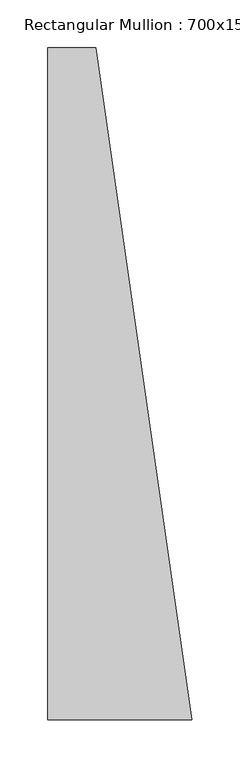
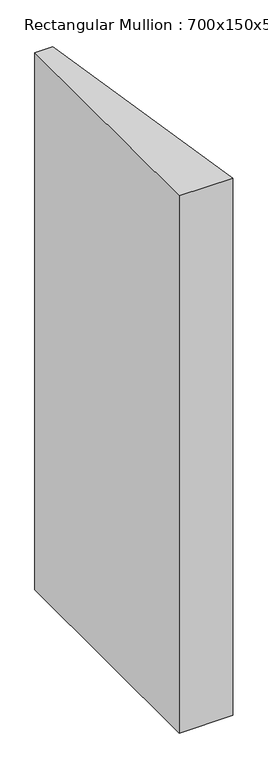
"""IFC4 building model written with IfcOpenShell, lengths in millimetres: member geometry, Rectangular Mullion : 700x150x50mm."""

from ifc_helpers import new_model, si_unit, frame, origin, place, context, project, spatial, polyline, outline, extrude, source, transform, mapped, element, save


def rectangular_mullion_700x150x50mm_84a4a7f8(model_context):
    return source(origin(), model_context, "Body", "SweptSolid", [
        extrude(outline(polyline([(-150.0, -350.0), (-150.0, 350.0), (-100.0, 350.0), (0.0, -350.0), (-150.0, -350.0)])), frame((0.0, 0.0, -1591.6667097), z_axis=(0.0, 0.0, 1.0), x_axis=(1.0, 0.0, 0.0)), (0.0, 0.0, 1.0), 1591.6667097),
    ])


if __name__ == "__main__":
    model = new_model("IFC4")
    model_context = context("Model", 3, world=origin())
    ifc_project = project(units=[si_unit("LENGTHUNIT", "METRE", prefix="MILLI")], contexts=[model_context])
    site = spatial("IfcSite", under=ifc_project)
    building = spatial("IfcBuilding", under=site)
    placement = place(None, origin())
    rectangular_mullion_700x150x50mm_shape = rectangular_mullion_700x150x50mm_84a4a7f8(model_context)
    element("IfcMember", 1, ObjectType="Rectangular Mullion : 700x150x50mm", at=placement, inside=building, context=model_context, shape_type="MappedRepresentation", body=[
        mapped(rectangular_mullion_700x150x50mm_shape, transform((0.0, 0.0, 0.0), x_axis=(1.0, 0.0, 0.0), y_axis=(0.0, 1.0, 0.0), z_axis=(0.0, 0.0, 1.0))),
    ])
    save(model, "model.ifc")
